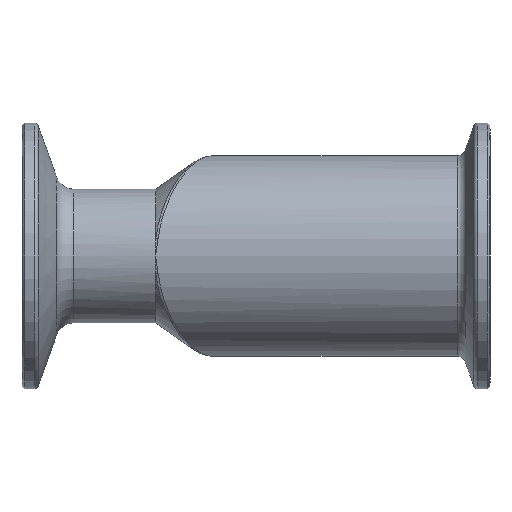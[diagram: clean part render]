
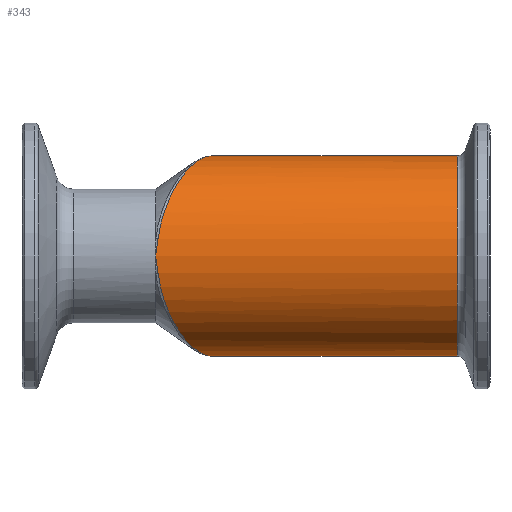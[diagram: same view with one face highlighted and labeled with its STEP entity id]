
A CAD part, front view. The second image highlights one B-rep face of the part: STEP entity #343.
In plain terms, the highlighted cylindrical face has radius 19.05 mm (diameter 38.1 mm), a partial arc.
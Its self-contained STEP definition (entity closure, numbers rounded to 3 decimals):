
#3 = CARTESIAN_POINT ( 'NONE',  ( 31.168, -10.27, -16.082 ) ) ;
#49 = CARTESIAN_POINT ( 'NONE',  ( 34.237, -4.322, 18.585 ) ) ;
#55 = CARTESIAN_POINT ( 'NONE',  ( 27.708, -16.058, 10.264 ) ) ;
#127 = ORIENTED_EDGE ( 'NONE', *, *, #655, .T. ) ;
#128 = CARTESIAN_POINT ( 'NONE',  ( 25.4, -19.05, 0. ) ) ;
#177 = CARTESIAN_POINT ( 'NONE',  ( 26.644, -17.646, -7.2 ) ) ;
#185 = CARTESIAN_POINT ( 'NONE',  ( 32.706, -7.384, -17.594 ) ) ;
#187 = VERTEX_POINT ( 'NONE', #128 ) ;
#218 = AXIS2_PLACEMENT_3D ( 'NONE', #233, #1645, #446 ) ;
#221 = CARTESIAN_POINT ( 'NONE',  ( 36.249, 0., 19.05 ) ) ;
#224 = ORIENTED_EDGE ( 'NONE', *, *, #833, .T. ) ;
#230 = CARTESIAN_POINT ( 'NONE',  ( 32.959, -6.882, 17.771 ) ) ;
#233 = CARTESIAN_POINT ( 'NONE',  ( 82.673, 0., 0. ) ) ;
#237 = CARTESIAN_POINT ( 'NONE',  ( 27.146, -16.908, 8.794 ) ) ;
#275 = VERTEX_POINT ( 'NONE', #467 ) ;
#326 = VERTEX_POINT ( 'NONE', #903 ) ;
#343 = ADVANCED_FACE ( 'NONE', ( #1940 ), #867, .T. ) ;
#358 = CARTESIAN_POINT ( 'NONE',  ( 25.4, -19.05, 0. ) ) ;
#379 = EDGE_CURVE ( 'NONE', #326, #187, #2076, .T. ) ;
#386 = CARTESIAN_POINT ( 'NONE',  ( 27.139, -16.918, -8.775 ) ) ;
#392 = CARTESIAN_POINT ( 'NONE',  ( 34.239, -4.317, -18.586 ) ) ;
#440 = CARTESIAN_POINT ( 'NONE',  ( 32.19, -8.367, 17.123 ) ) ;
#446 = DIRECTION ( 'NONE',  ( 0., 0., 1. ) ) ;
#450 = CARTESIAN_POINT ( 'NONE',  ( 26.65, -17.638, 7.222 ) ) ;
#467 = CARTESIAN_POINT ( 'NONE',  ( 82.673, 0., -19.05 ) ) ;
#472 = CARTESIAN_POINT ( 'NONE',  ( 25.852, -18.77, -3.256 ) ) ;
#577 = CARTESIAN_POINT ( 'NONE',  ( 25.558, -19.027, -1.09 ) ) ;
#582 = CARTESIAN_POINT ( 'NONE',  ( 26.222, -18.254, -5.57 ) ) ;
#600 = CARTESIAN_POINT ( 'NONE',  ( 27.895, -15.774, -10.742 ) ) ;
#611 = CARTESIAN_POINT ( 'NONE',  ( 35.258, -2.166, -18.934 ) ) ;
#655 = EDGE_CURVE ( 'NONE', #275, #1037, #656, .T. ) ;
#656 = CIRCLE ( 'NONE', #218, 19.05 ) ;
#661 = CARTESIAN_POINT ( 'NONE',  ( 31.165, -10.276, 16.078 ) ) ;
#672 = CARTESIAN_POINT ( 'NONE',  ( 26., -18.564, 4.439 ) ) ;
#735 = EDGE_CURVE ( 'NONE', #275, #1586, #2312, .T. ) ;
#798 = CARTESIAN_POINT ( 'NONE',  ( 36.249, 0., 19.05 ) ) ;
#818 = CARTESIAN_POINT ( 'NONE',  ( 25.784, -18.863, -2.717 ) ) ;
#833 = EDGE_CURVE ( 'NONE', #1037, #1895, #1909, .T. ) ;
#837 = VECTOR ( 'NONE', #1076, 1000. ) ;
#838 = CARTESIAN_POINT ( 'NONE',  ( 28.993, -14.019, -12.91 ) ) ;
#846 = CARTESIAN_POINT ( 'NONE',  ( 36.005, -0.542, -19.05 ) ) ;
#867 = CYLINDRICAL_SURFACE ( 'NONE', #1228, 19.05 ) ;
#898 = CARTESIAN_POINT ( 'NONE',  ( 29.696, -12.853, 14.102 ) ) ;
#903 = CARTESIAN_POINT ( 'NONE',  ( 25.852, -18.77, 3.256 ) ) ;
#938 = EDGE_CURVE ( 'NONE', #1125, #1586, #2173, .T. ) ;
#1028 = CARTESIAN_POINT ( 'NONE',  ( 29.697, -12.844, -14.079 ) ) ;
#1029 = B_SPLINE_CURVE_WITH_KNOTS ( 'NONE', 3,
 ( #358, #1763, #577, #1963, #818, #2146 ),
 .UNSPECIFIED., .F., .F.,
 ( 4, 2, 4 ),
 ( 0., 0.002, 0.003 ),
 .UNSPECIFIED. ) ;
#1037 = VERTEX_POINT ( 'NONE', #1472 ) ;
#1067 = CARTESIAN_POINT ( 'NONE',  ( 35.756, -1.087, 19.027 ) ) ;
#1076 = DIRECTION ( 'NONE',  ( -1., 0., 0. ) ) ;
#1077 = CARTESIAN_POINT ( 'NONE',  ( 28.547, -14.742, 12.078 ) ) ;
#1099 = EDGE_LOOP ( 'NONE', ( #2180, #127, #224, #1834, #1188, #1196, #1236 ) ) ;
#1125 = VERTEX_POINT ( 'NONE', #472 ) ;
#1172 = CARTESIAN_POINT ( 'NONE',  ( 25.4, -19.05, 0. ) ) ;
#1188 = ORIENTED_EDGE ( 'NONE', *, *, #379, .T. ) ;
#1196 = ORIENTED_EDGE ( 'NONE', *, *, #1479, .T. ) ;
#1215 = CARTESIAN_POINT ( 'NONE',  ( 30.667, -11.168, -15.472 ) ) ;
#1228 = AXIS2_PLACEMENT_3D ( 'NONE', #2022, #1937, #2040 ) ;
#1236 = ORIENTED_EDGE ( 'NONE', *, *, #938, .T. ) ;
#1252 = CARTESIAN_POINT ( 'NONE',  ( 25.559, -19.05, 1.092 ) ) ;
#1254 = CARTESIAN_POINT ( 'NONE',  ( 35., -2.718, 18.863 ) ) ;
#1268 = CARTESIAN_POINT ( 'NONE',  ( -12.994, 0., -19.05 ) ) ;
#1269 = CARTESIAN_POINT ( 'NONE',  ( 27.909, -15.749, 10.732 ) ) ;
#1365 = CARTESIAN_POINT ( 'NONE',  ( 25.852, -18.77, 3.256 ) ) ;
#1398 = VECTOR ( 'NONE', #1562, 1000. ) ;
#1407 = CARTESIAN_POINT ( 'NONE',  ( 25.852, -18.77, -3.256 ) ) ;
#1416 = CARTESIAN_POINT ( 'NONE',  ( 32.194, -8.367, -17.149 ) ) ;
#1419 = CARTESIAN_POINT ( 'NONE',  ( 25.717, -18.957, 2.177 ) ) ;
#1453 = CARTESIAN_POINT ( 'NONE',  ( 36.004, -0.544, 19.05 ) ) ;
#1460 = CARTESIAN_POINT ( 'NONE',  ( 33.727, -5.363, 18.311 ) ) ;
#1471 = CARTESIAN_POINT ( 'NONE',  ( 27.327, -16.638, 9.295 ) ) ;
#1472 = CARTESIAN_POINT ( 'NONE',  ( 82.673, 0., 19.05 ) ) ;
#1479 = EDGE_CURVE ( 'NONE', #187, #1125, #1029, .T. ) ;
#1562 = DIRECTION ( 'NONE',  ( -1., 0., 0. ) ) ;
#1586 = VERTEX_POINT ( 'NONE', #1791 ) ;
#1594 = CARTESIAN_POINT ( 'NONE',  ( 26.8, -17.42, -7.733 ) ) ;
#1601 = CARTESIAN_POINT ( 'NONE',  ( 33.729, -5.359, -18.312 ) ) ;
#1640 = CARTESIAN_POINT ( 'NONE',  ( 32.703, -7.382, 17.57 ) ) ;
#1645 = DIRECTION ( 'NONE',  ( -1., 0., 0. ) ) ;
#1649 = CARTESIAN_POINT ( 'NONE',  ( 26.808, -17.408, 7.759 ) ) ;
#1763 = CARTESIAN_POINT ( 'NONE',  ( 25.479, -19.05, -0.544 ) ) ;
#1772 = EDGE_CURVE ( 'NONE', #1895, #326, #2339, .T. ) ;
#1785 = CARTESIAN_POINT ( 'NONE',  ( 27.321, -16.646, -9.281 ) ) ;
#1791 = CARTESIAN_POINT ( 'NONE',  ( 36.249, 0., -19.05 ) ) ;
#1796 = CARTESIAN_POINT ( 'NONE',  ( 35.004, -2.709, -18.864 ) ) ;
#1834 = ORIENTED_EDGE ( 'NONE', *, *, #1772, .T. ) ;
#1844 = CARTESIAN_POINT ( 'NONE',  ( 31.931, -8.854, 16.876 ) ) ;
#1849 = CARTESIAN_POINT ( 'NONE',  ( 26.223, -18.253, 5.577 ) ) ;
#1890 = CARTESIAN_POINT ( 'NONE',  ( -12.994, 0., 19.05 ) ) ;
#1895 = VERTEX_POINT ( 'NONE', #798 ) ;
#1909 = LINE ( 'NONE', #1890, #1398 ) ;
#1937 = DIRECTION ( 'NONE',  ( -1., 0., 0. ) ) ;
#1940 = FACE_OUTER_BOUND ( 'NONE', #1099, .T. ) ;
#1963 = CARTESIAN_POINT ( 'NONE',  ( 25.711, -18.933, -2.175 ) ) ;
#1983 = CARTESIAN_POINT ( 'NONE',  ( 28.316, -15.116, -11.647 ) ) ;
#1990 = CARTESIAN_POINT ( 'NONE',  ( 35.758, -1.083, -19.027 ) ) ;
#2022 = CARTESIAN_POINT ( 'NONE',  ( -12.994, 0., 0. ) ) ;
#2035 = CARTESIAN_POINT ( 'NONE',  ( 30.666, -11.17, 15.47 ) ) ;
#2040 = DIRECTION ( 'NONE',  ( 0., 0., 1. ) ) ;
#2045 = CARTESIAN_POINT ( 'NONE',  ( 25.852, -18.77, 3.256 ) ) ;
#2076 = B_SPLINE_CURVE_WITH_KNOTS ( 'NONE', 3,
 ( #1365, #1419, #1252, #1172 ),
 .UNSPECIFIED., .F., .F.,
 ( 4, 4 ),
 ( 0., 0.003 ),
 .UNSPECIFIED. ) ;
#2146 = CARTESIAN_POINT ( 'NONE',  ( 25.852, -18.77, -3.256 ) ) ;
#2166 = CARTESIAN_POINT ( 'NONE',  ( 29.225, -13.636, -13.314 ) ) ;
#2173 = B_SPLINE_CURVE_WITH_KNOTS ( 'NONE', 3,
 ( #1407, #2567, #582, #177, #1594, #386, #1785, #600, #1983, #838, #2166, #1028, #2383, #1215, #3, #1416, #185, #1601, #392, #1796, #611, #1990, #846, #2178 ),
 .UNSPECIFIED., .F., .F.,
 ( 4, 2, 2, 2, 2, 2, 2, 2, 2, 2, 2, 4 ),
 ( 0., 0.004, 0.005, 0.007, 0.011, 0.013, 0.014, 0.018, 0.021, 0.025, 0.027, 0.029 ),
 .UNSPECIFIED. ) ;
#2178 = CARTESIAN_POINT ( 'NONE',  ( 36.249, 0., -19.05 ) ) ;
#2180 = ORIENTED_EDGE ( 'NONE', *, *, #735, .F. ) ;
#2228 = CARTESIAN_POINT ( 'NONE',  ( 29.225, -13.643, 13.343 ) ) ;
#2312 = LINE ( 'NONE', #1268, #837 ) ;
#2339 = B_SPLINE_CURVE_WITH_KNOTS ( 'NONE', 3,
 ( #221, #1453, #1067, #2428, #1254, #49, #1460, #230, #1640, #440, #1844, #661, #2035, #898, #2228, #1077, #2435, #1269, #55, #1471, #237, #1649, #450, #1849, #672, #2045 ),
 .UNSPECIFIED., .F., .F.,
 ( 4, 2, 2, 2, 2, 2, 2, 2, 2, 2, 2, 2, 4 ),
 ( 0.091, 0.092, 0.094, 0.098, 0.1, 0.101, 0.105, 0.109, 0.11, 0.112, 0.114, 0.116, 0.119 ),
 .UNSPECIFIED. ) ;
#2383 = CARTESIAN_POINT ( 'NONE',  ( 29.937, -12.435, -14.442 ) ) ;
#2428 = CARTESIAN_POINT ( 'NONE',  ( 35.254, -2.174, 18.933 ) ) ;
#2435 = CARTESIAN_POINT ( 'NONE',  ( 28.328, -15.091, 11.639 ) ) ;
#2567 = CARTESIAN_POINT ( 'NONE',  ( 26., -18.565, -4.439 ) ) ;
